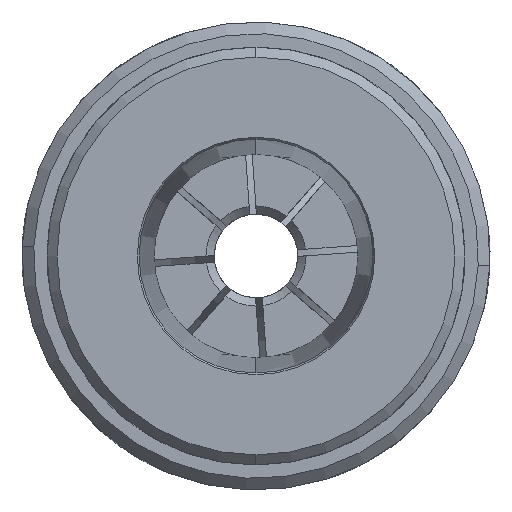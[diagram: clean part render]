
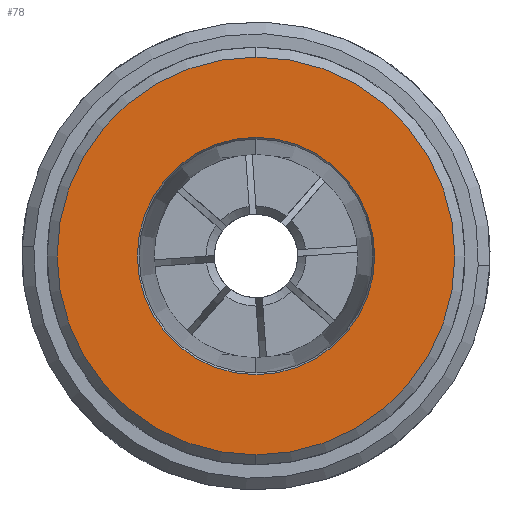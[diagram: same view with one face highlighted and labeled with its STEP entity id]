
A CAD part, left-side view. The second image highlights one B-rep face of the part: STEP entity #78.
In plain terms, the highlighted planar face has unit normal (-1, 0, 0).
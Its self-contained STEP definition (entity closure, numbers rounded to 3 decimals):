
#6 = ORIENTED_EDGE ( 'NONE', *, *, #263, .T. ) ;
#16 = EDGE_CURVE ( 'NONE', #800, #798, #6520, .T. ) ;
#30 = ORIENTED_EDGE ( 'NONE', *, *, #16, .T. ) ;
#36 = EDGE_LOOP ( 'NONE', ( #260, #30 ) ) ;
#78 = ADVANCED_FACE ( 'NONE', ( #6623, #6622 ), #6621, .T. ) ;
#79 = EDGE_LOOP ( 'NONE', ( #6, #242 ) ) ;
#196 = VERTEX_POINT ( 'NONE', #6810 ) ;
#221 = EDGE_CURVE ( 'NONE', #196, #759, #6839, .T. ) ;
#242 = ORIENTED_EDGE ( 'NONE', *, *, #221, .T. ) ;
#260 = ORIENTED_EDGE ( 'NONE', *, *, #797, .T. ) ;
#263 = EDGE_CURVE ( 'NONE', #759, #196, #6901, .T. ) ;
#759 = VERTEX_POINT ( 'NONE', #989 ) ;
#797 = EDGE_CURVE ( 'NONE', #798, #800, #1099, .T. ) ;
#798 = VERTEX_POINT ( 'NONE', #1094 ) ;
#800 = VERTEX_POINT ( 'NONE', #1093 ) ;
#989 = CARTESIAN_POINT ( 'NONE',  ( 0., 0., -11.9 ) ) ;
#1093 = CARTESIAN_POINT ( 'NONE',  ( 0., 0., -7.099 ) ) ;
#1094 = CARTESIAN_POINT ( 'NONE',  ( 0., 0., 7.099 ) ) ;
#1095 = DIRECTION ( 'NONE',  ( 0., 0., 1. ) ) ;
#1096 = DIRECTION ( 'NONE',  ( 1., 0., 0. ) ) ;
#1097 = CARTESIAN_POINT ( 'NONE',  ( 0., 0., 0. ) ) ;
#1098 = AXIS2_PLACEMENT_3D ( 'NONE', #1097, #1096, #1095 ) ;
#1099 = CIRCLE ( 'NONE', #1098, 7.099 ) ;
#6517 = DIRECTION ( 'NONE',  ( 0., 0., 1. ) ) ;
#6518 = DIRECTION ( 'NONE',  ( 1., 0., 0. ) ) ;
#6519 = AXIS2_PLACEMENT_3D ( 'NONE', #6524, #6518, #6517 ) ;
#6520 = CIRCLE ( 'NONE', #6519, 7.099 ) ;
#6524 = CARTESIAN_POINT ( 'NONE',  ( 0., 0., 0. ) ) ;
#6617 = DIRECTION ( 'NONE',  ( 0., 0., 1. ) ) ;
#6618 = DIRECTION ( 'NONE',  ( -1., 0., 0. ) ) ;
#6619 = CARTESIAN_POINT ( 'NONE',  ( 0., 0., 0. ) ) ;
#6620 = AXIS2_PLACEMENT_3D ( 'NONE', #6619, #6618, #6617 ) ;
#6621 = PLANE ( 'NONE',  #6620 ) ;
#6622 = FACE_BOUND ( 'NONE', #36, .T. ) ;
#6623 = FACE_OUTER_BOUND ( 'NONE', #79, .T. ) ;
#6810 = CARTESIAN_POINT ( 'NONE',  ( 0., 0., 11.9 ) ) ;
#6835 = DIRECTION ( 'NONE',  ( 0., 0., 1. ) ) ;
#6836 = DIRECTION ( 'NONE',  ( -1., 0., 0. ) ) ;
#6837 = CARTESIAN_POINT ( 'NONE',  ( 0., 0., 0. ) ) ;
#6838 = AXIS2_PLACEMENT_3D ( 'NONE', #6837, #6836, #6835 ) ;
#6839 = CIRCLE ( 'NONE', #6838, 11.9 ) ;
#6898 = DIRECTION ( 'NONE',  ( 0., 0., 1. ) ) ;
#6899 = DIRECTION ( 'NONE',  ( -1., 0., 0. ) ) ;
#6900 = AXIS2_PLACEMENT_3D ( 'NONE', #6905, #6899, #6898 ) ;
#6901 = CIRCLE ( 'NONE', #6900, 11.9 ) ;
#6905 = CARTESIAN_POINT ( 'NONE',  ( 0., 0., 0. ) ) ;
